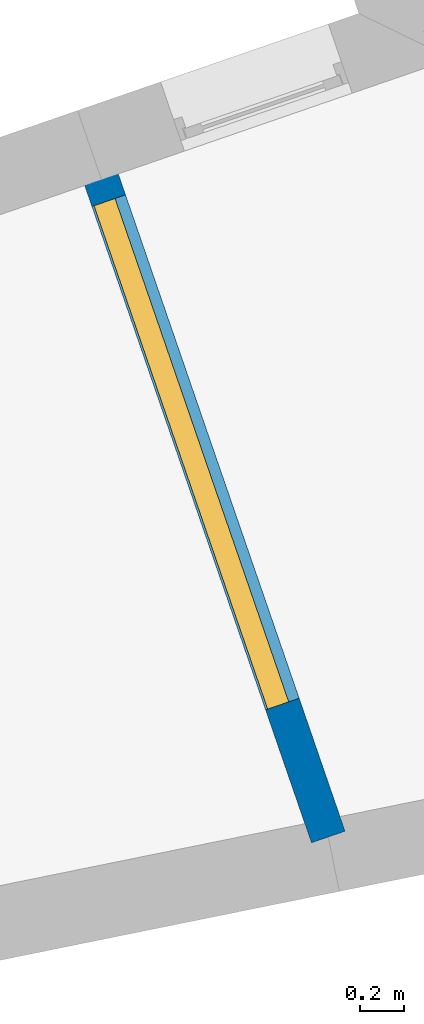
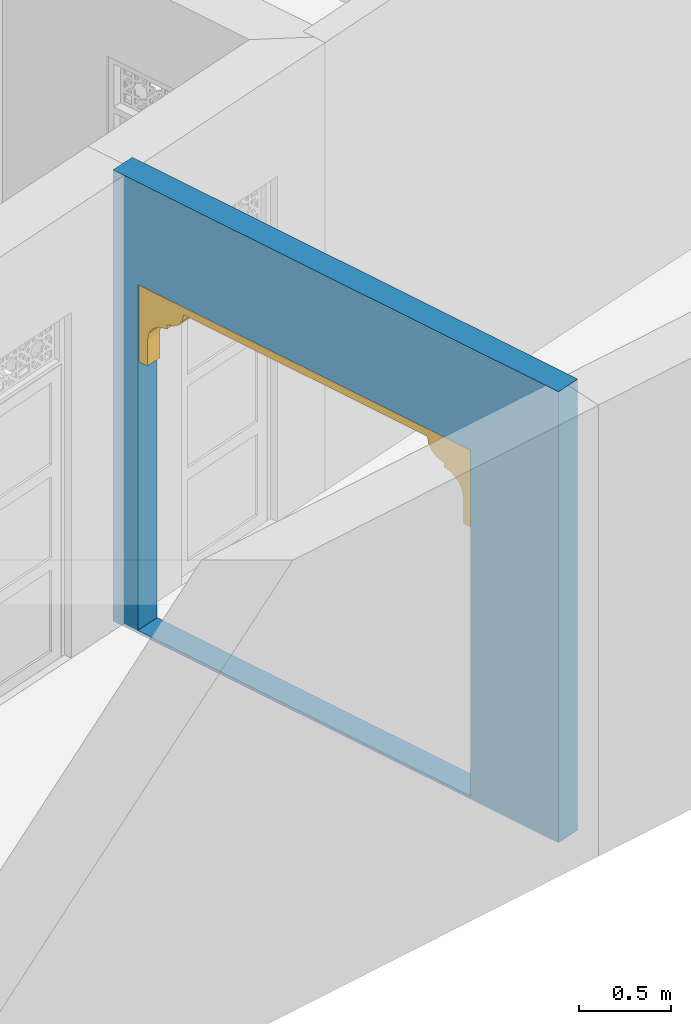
# One storey, part 3 of 16: 1 door, 1 wall, 1 opening.
"""IFC4 building model written with IfcOpenShell, lengths in metres."""

from ifc_helpers import new_model, si_unit, frame, origin, origin_with_axes, place, context, subcontext, project, spatial, polyline, outline, extrude, faceted_brep, source, transform, mapped, material, layer, layer_set, layer_usage, type_object, type_shapes, element, fill, save


model = new_model("IFC4")

# Units and contexts
model_context = context("Model", 3, world=origin_with_axes())
body_context = subcontext(model_context, "Body", "Model", "MODEL_VIEW")
ifc_project = project(units=[si_unit("PLANEANGLEUNIT", "RADIAN"), si_unit("MASSUNIT", "GRAM", prefix="KILO"), si_unit("FORCEUNIT", "NEWTON", prefix="KILO"), si_unit("LENGTHUNIT", "METRE"), si_unit("AREAUNIT", "SQUARE_METRE"), si_unit("VOLUMEUNIT", "CUBIC_METRE")], contexts=[model_context, model_context])

# Site, building, storey
site_placement = place(None, origin_with_axes())
site = spatial("IfcSite", under=ifc_project, at=site_placement, Name="Site plot-8", CompositionType="ELEMENT")
building_placement = place(None, origin_with_axes())
building = spatial("IfcBuilding", under=site, at=building_placement, Name="Building plot-8", CompositionType="ELEMENT")
storey_placement = place(None, origin_with_axes())
storey = spatial("IfcBuildingStorey", under=building, at=storey_placement, Name="plot-8 0", CompositionType="ELEMENT", Elevation=0.0)

# Wall, opening, door
ifc_material = material(Name="Masonry")
ifc_layer = layer(ifc_material, 0.16, ventilated=False)
ifc_layer_set = layer_set([ifc_layer], Name="interior_0.08_0.08")
ifc_layer_usage = layer_usage(ifc_layer_set, "AXIS2", "POSITIVE", -0.08)
wall_type = type_object("IfcWallType", Name="interior_0.08_0.08", PredefinedType="SOLIDWALL", material=ifc_layer_set)
wall_placement = place(storey_placement, frame((-7.9574852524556, 15.6278516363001, 0.0), z_axis=(0.0, 0.0, 1.0), x_axis=(0.326112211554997, -0.945331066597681, 0.0)))
wall = element("IfcWall", 1, at=wall_placement, inside=storey, type_object=wall_type, material=ifc_layer_usage, Name="interior", context=body_context, shape_type="SweptSolid", body=[
    extrude(outline(polyline([(-9.01043400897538e-16, 0.08), (6.24792700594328e-16, -0.0800000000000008), (3.21430507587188, -0.08), (3.21430507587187, 0.0799999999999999), (-9.01043400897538e-16, 0.08)])), origin_with_axes(), (0.0, 0.0, 1.0), 3.0),
])
opening_placement = place(wall_placement, frame((0.18, 0.0, 0.02)))
opening = element("IfcOpeningElement", 2, at=opening_placement, cuts=wall, Name="My Opening", ObjectType="Opening", context=body_context, shape_type="SweptSolid", body=[
    extrude(outline(polyline([(0.0, -0.100000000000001), (2.4, -0.100000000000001), (2.4, 1.1), (-1.74860126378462e-15, 1.1), (0.0, -0.100000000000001)])), origin_with_axes(), (0.0, 0.0, 1.0), 2.3),
])
door_type = type_object("IfcDoorType", Name="arch-2400x2300-thin", OperationType="SINGLE_SWING_LEFT", PredefinedType="NOTDEFINED")
shared_shape = source(origin(), body_context, "Body", "Brep", [
    faceted_brep([(2.4, 0.03, 1.78), (2.4, 0.03, 1.95), (2.34, 0.03, 1.95), (2.34, 0.03, 1.78), (2.34, 0.13, 1.95), (2.34, 0.13, 1.78), (2.4, 0.03, 2.12), (2.329, 0.03, 2.004), (2.4, 0.13, 1.78), (2.4, 0.13, 1.95), (2.329, 0.13, 2.004), (2.299, 0.03, 2.049), (2.4, 0.13, 2.12), (2.299, 0.13, 2.049), (2.254, 0.03, 2.079), (2.4, 0.13, 2.29), (2.4, 0.03, 2.29), (2.254, 0.13, 2.079), (2.2, 0.03, 2.09), (2.2, 0.03, 2.12), (2.154, 0.03, 2.129), (2.08, 0.13, 2.29), (2.08, 0.03, 2.29), (2.2, 0.13, 2.12), (2.154, 0.13, 2.129), (2.2, 0.13, 2.09), (2.115, 0.03, 2.155), (2.089, 0.13, 2.194), (2.08, 0.13, 2.24), (2.08, 0.03, 2.24), (2.089, 0.03, 2.194), (2.115, 0.13, 2.155), (0.06, 0.03, 1.78), (0.06, 0.03, 1.95), (0.0, 0.03, 1.95), (0.0, 0.03, 1.78), (0.06, 0.13, 1.78), (0.06, 0.13, 1.95), (0.071, 0.03, 2.004), (0.0, 0.03, 2.12), (0.0, 0.13, 1.95), (0.0, 0.13, 1.78), (0.071, 0.13, 2.004), (0.101, 0.03, 2.049), (0.0, 0.13, 2.12), (0.101, 0.13, 2.049), (0.146, 0.03, 2.079), (0.0, 0.03, 2.29), (0.0, 0.13, 2.29), (0.146, 0.13, 2.079), (0.2, 0.03, 2.12), (0.2, 0.03, 2.09), (0.246, 0.03, 2.129), (0.32, 0.03, 2.29), (0.32, 0.13, 2.29), (0.246, 0.13, 2.129), (0.2, 0.13, 2.12), (0.2, 0.13, 2.09), (0.285, 0.03, 2.155), (0.32, 0.13, 2.24), (0.311, 0.13, 2.194), (0.311, 0.03, 2.194), (0.32, 0.03, 2.24), (0.285, 0.13, 2.155)], [[[0, 1, 2, 3]], [[4, 5, 3, 2]], [[1, 6, 7, 2]], [[1, 0, 8, 9]], [[5, 8, 0, 3]], [[5, 4, 9, 8]], [[10, 4, 2, 7]], [[6, 11, 7]], [[6, 1, 9, 12]], [[4, 10, 12, 9]], [[13, 10, 7, 11]], [[6, 14, 11]], [[12, 15, 16, 6]], [[12, 10, 13]], [[17, 13, 11, 14]], [[18, 14, 6, 19]], [[6, 16, 20, 19]], [[16, 15, 21, 22]], [[23, 24, 15, 12]], [[12, 13, 17]], [[25, 17, 14, 18]], [[23, 25, 18, 19]], [[24, 23, 19, 20]], [[16, 26, 20]], [[15, 27, 28, 21]], [[16, 22, 29, 30]], [[31, 15, 24]], [[23, 12, 17, 25]], [[31, 24, 20, 26]], [[16, 30, 26]], [[28, 27, 30, 29]], [[27, 15, 31]], [[27, 31, 26, 30]], [[32, 33, 34, 35]], [[33, 32, 36, 37]], [[33, 38, 39, 34]], [[35, 34, 40, 41]], [[32, 35, 41, 36]], [[41, 40, 37, 36]], [[38, 33, 37, 42]], [[38, 43, 39]], [[44, 40, 34, 39]], [[40, 44, 42, 37]], [[43, 38, 42, 45]], [[43, 46, 39]], [[39, 47, 48, 44]], [[45, 42, 44]], [[46, 43, 45, 49]], [[50, 39, 46, 51]], [[50, 52, 47, 39]], [[53, 54, 48, 47]], [[44, 48, 55, 56]], [[49, 45, 44]], [[51, 46, 49, 57]], [[50, 51, 57, 56]], [[52, 50, 56, 55]], [[52, 58, 47]], [[54, 59, 60, 48]], [[61, 62, 53, 47]], [[55, 48, 63]], [[57, 49, 44, 56]], [[58, 52, 55, 63]], [[58, 61, 47]], [[62, 61, 60, 59]], [[63, 48, 60]], [[61, 58, 63, 60]], [[62, 59, 28, 29]], [[59, 54, 21, 28]], [[53, 62, 29, 22]], [[54, 53, 22, 21]]]),
])
type_shapes(door_type, [shared_shape])
door_placement = place(storey_placement, frame((-7.99331816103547, 15.425080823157, 0.02), z_axis=(0.0, 0.0, 1.0), x_axis=(0.782669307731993, -2.26879455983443, 0.0)))
door = element("IfcDoor", 3, at=door_placement, inside=storey, type_object=door_type, Name="kitchen living inside door", OverallHeight=2.3, OverallWidth=2.4, context=body_context, shape_type="MappedRepresentation", body=[
    mapped(shared_shape, transform((0.0, 0.0, 0.0), scale=1.0)),
])
fill(opening, door)

save(model, "model.ifc")
